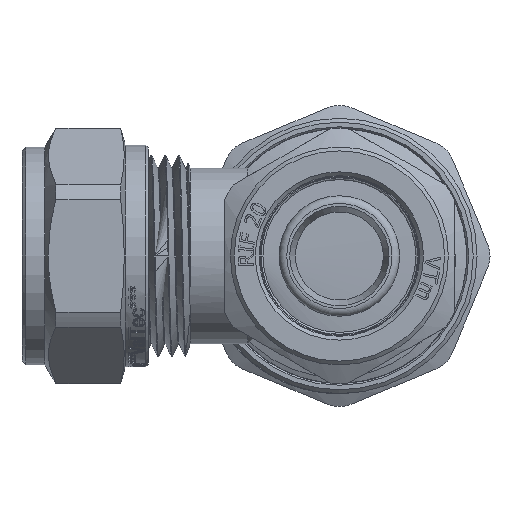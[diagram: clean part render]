
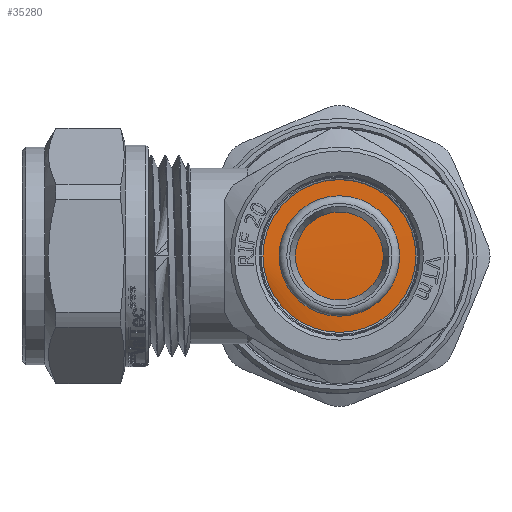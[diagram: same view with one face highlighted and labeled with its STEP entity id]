
A CAD part, left-side view. The second image highlights one B-rep face of the part: STEP entity #35280.
In plain terms, the highlighted cylindrical face has radius 11.5 mm (diameter 23 mm), a full revolution.
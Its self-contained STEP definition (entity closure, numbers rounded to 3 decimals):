
#2877=FACE_OUTER_BOUND('',#4884,.T.);
#4884=EDGE_LOOP('',(#23720,#23721,#23722));
#7064=B_SPLINE_CURVE_WITH_KNOTS('',3,(#45347,#45348,#45349,#45350,#45351,
#45352,#45353,#45354,#45355,#45356,#45357,#45358,#45359,#45360,#45361,#45362,
#45363),.UNSPECIFIED.,.F.,.F.,(4,1,1,1,1,1,1,1,1,1,1,1,1,1,4),(12.566,
12.688,13.183,13.679,14.174,14.669,
15.164,15.66,16.155,16.65,17.146,
17.641,18.136,18.632,18.85),
 .UNSPECIFIED.);
#9402=LINE('',#45150,#11798);
#9410=LINE('',#45346,#11806);
#11798=VECTOR('',#39114,11.5);
#11806=VECTOR('',#39144,11.5);
#14196=VERTEX_POINT('',#45148);
#14197=VERTEX_POINT('',#45149);
#14212=VERTEX_POINT('',#45345);
#18022=EDGE_CURVE('',#14196,#14197,#9402,.T.);
#18045=EDGE_CURVE('',#14212,#14197,#9410,.T.);
#18046=EDGE_CURVE('',#14212,#14196,#7064,.T.);
#23720=ORIENTED_EDGE('',*,*,#18022,.T.);
#23721=ORIENTED_EDGE('',*,*,#18045,.F.);
#23722=ORIENTED_EDGE('',*,*,#18046,.T.);
#35029=CYLINDRICAL_SURFACE('',#37315,11.5);
#35280=ADVANCED_FACE('',(#2877),#35029,.T.);
#37315=AXIS2_PLACEMENT_3D('',#45344,#39142,#39143);
#39114=DIRECTION('',(-1.,0.,0.));
#39142=DIRECTION('center_axis',(-1.,0.,0.));
#39143=DIRECTION('ref_axis',(0.,-1.,0.));
#39144=DIRECTION('',(1.,0.,0.));
#45148=CARTESIAN_POINT('',(-26.,11.5,0.));
#45149=CARTESIAN_POINT('',(-27.7,11.5,0.));
#45150=CARTESIAN_POINT('',(-15.25,11.5,0.));
#45344=CARTESIAN_POINT('Origin',(-15.25,0.,
0.));
#45345=CARTESIAN_POINT('',(-27.8,11.5,0.));
#45346=CARTESIAN_POINT('',(-15.25,11.5,0.));
#45347=CARTESIAN_POINT('Ctrl Pts',(-27.8,11.5,0.));
#45348=CARTESIAN_POINT('Ctrl Pts',(-27.788,11.5,0.466));
#45349=CARTESIAN_POINT('Ctrl Pts',(-27.729,11.359,2.83));
#45350=CARTESIAN_POINT('Ctrl Pts',(-27.623,9.773,6.93));
#45351=CARTESIAN_POINT('Ctrl Pts',(-27.481,5.305,10.743));
#45352=CARTESIAN_POINT('Ctrl Pts',(-27.339,-0.439,
11.973));
#45353=CARTESIAN_POINT('Ctrl Pts',(-27.198,-6.077,
10.325));
#45354=CARTESIAN_POINT('Ctrl Pts',(-27.056,-10.254,6.196));
#45355=CARTESIAN_POINT('Ctrl Pts',(-26.914,-11.967,
0.577));
#45356=CARTESIAN_POINT('Ctrl Pts',(-26.772,-10.803,
-5.18));
#45357=CARTESIAN_POINT('Ctrl Pts',(-26.63,-7.043,
-9.692));
#45358=CARTESIAN_POINT('Ctrl Pts',(-26.488,-1.589,
-11.875));
#45359=CARTESIAN_POINT('Ctrl Pts',(-26.346,4.246,-11.203));
#45360=CARTESIAN_POINT('Ctrl Pts',(-26.204,9.061,-7.839));
#45361=CARTESIAN_POINT('Ctrl Pts',(-26.089,11.205,-3.57));
#45362=CARTESIAN_POINT('Ctrl Pts',(-26.021,11.499,-0.836));
#45363=CARTESIAN_POINT('Ctrl Pts',(-26.,11.499,0.));
